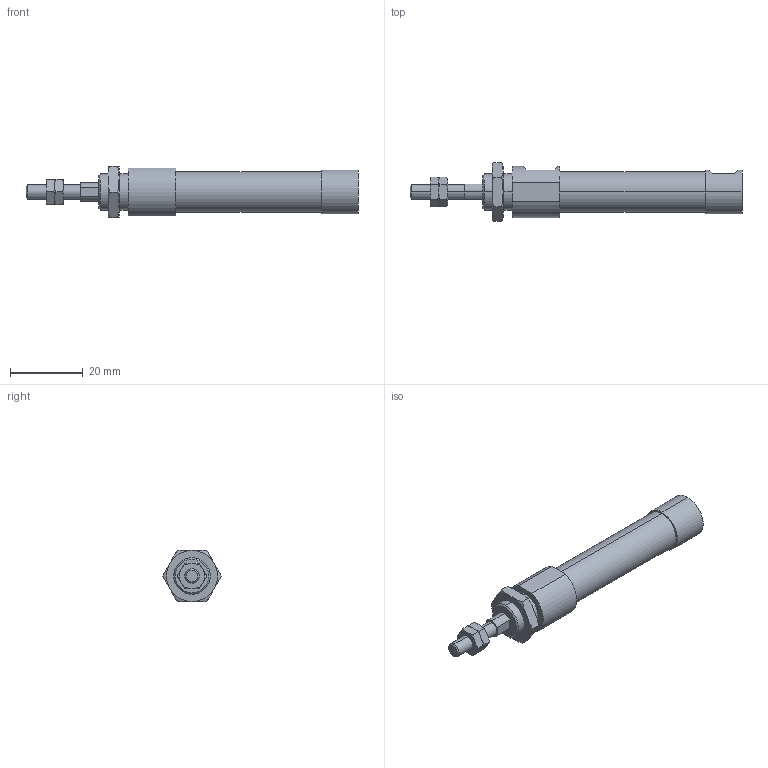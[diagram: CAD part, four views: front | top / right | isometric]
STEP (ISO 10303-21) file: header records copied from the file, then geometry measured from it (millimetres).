
FILE_DESCRIPTION (( 'STEP AP203' ), '1' );
FILE_NAME ('ZGU2-10-15-N.STEP', '2016-03-31T00:51:15', ( '' ), ( '' ), 'SwSTEP 2.0', 'SolidWorks 2014', '' );
FILE_SCHEMA (( 'CONFIG_CONTROL_DESIGN' ));
Length unit declared in the file: millimetre
Products named in the file (4): ZGU2-10-15-N; ZGU2-10-15
Assembly tree (4 placements, depth 2):
  ZGU2-10-15-N
    ZGU2-10-15
    (unnamed)  x2
    (unnamed)
Bounding box: 91 x 16.17 x 14 mm (x, y, z)
Volume: 7979.1 mm3; surface area: 4104.4 mm2
Topology: 4 solids, 4 shells, 108 faces, 235 edges, 140 vertices
Faces by surface type: plane 41, torus 36, cylinder 23, cone 8
Entity records: 3047 total; most frequent: CARTESIAN_POINT 792, DIRECTION 387, ORIENTED_EDGE 366, EDGE_CURVE 183, AXIS2_PLACEMENT_3D 163, VERTEX_POINT 112, EDGE_LOOP 99, ADVANCED_FACE 86
